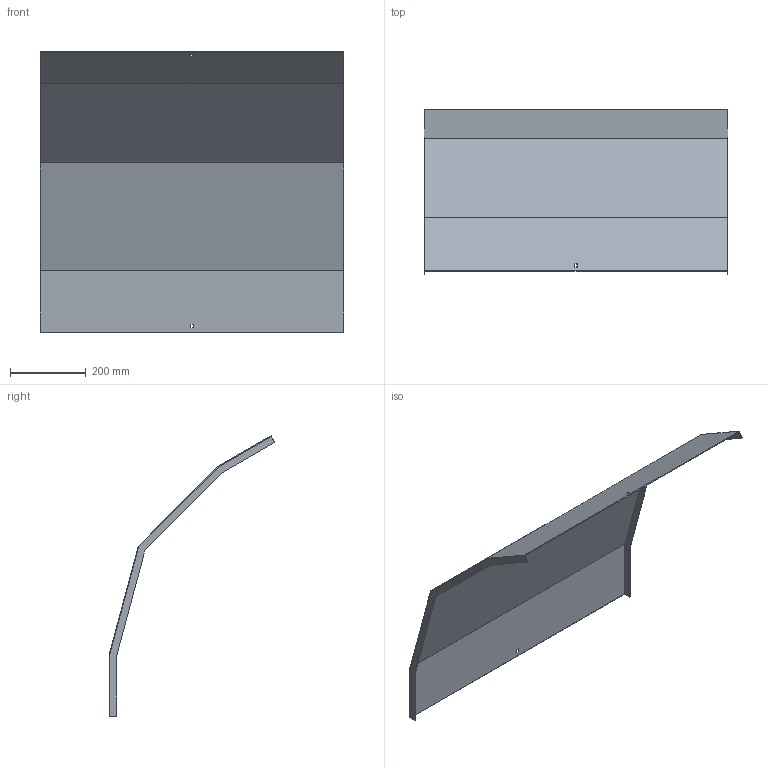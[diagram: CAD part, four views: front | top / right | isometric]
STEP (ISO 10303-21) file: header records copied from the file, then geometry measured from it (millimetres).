
FILE_DESCRIPTION (( 'STEP AP214' ), '1' );
FILE_NAME ('41N5C800.step', '2025-02-21T10:37:51', ( '' ), ( '' ), 'SwSTEP 2.0', 'SolidWorks 2023', '' );
FILE_SCHEMA (( 'AUTOMOTIVE_DESIGN' ));
Length unit declared in the file: millimetre
Products named in the file (1): 41N5C800
Bounding box: 803 x 437.72 x 740.83 mm (x, y, z)
Volume: 1156485.9 mm3; surface area: 1547290.7 mm2
Topology: 1 solids, 1 shells, 30 faces, 84 edges, 56 vertices
Faces by surface type: plane 30
Entity records: 979 total; most frequent: CARTESIAN_POINT 171, ORIENTED_EDGE 168, DIRECTION 146, LINE 84, EDGE_CURVE 84, VECTOR 84, VERTEX_POINT 56, EDGE_LOOP 34
